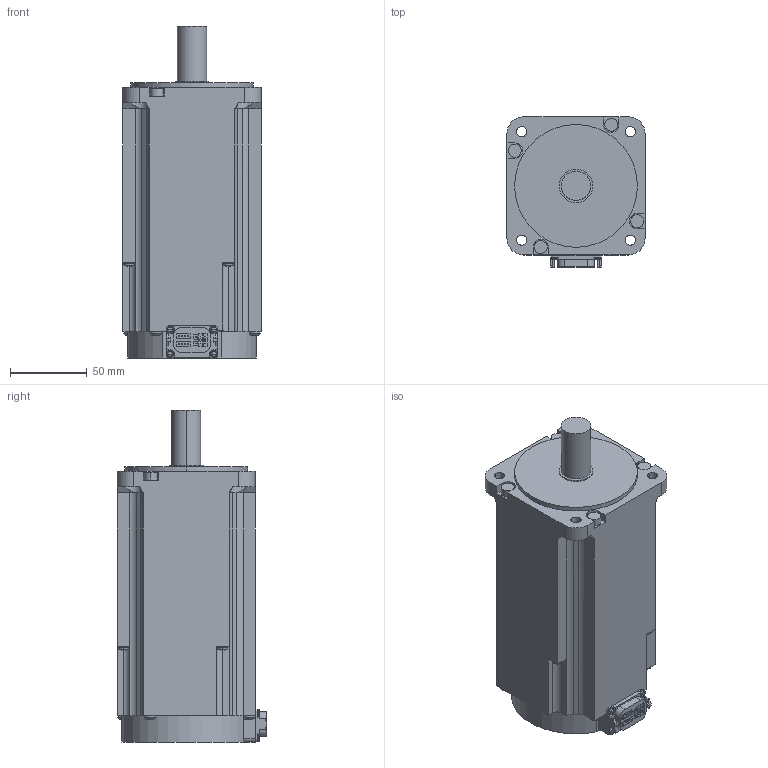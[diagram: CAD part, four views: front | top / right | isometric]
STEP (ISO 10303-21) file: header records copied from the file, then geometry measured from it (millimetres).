
FILE_DESCRIPTION((''),'2;1');
FILE_NAME('PRT0003','2019-01-16T',('XE90682'),(''),'CREO PARAMETRIC BY PTC INC, 2016380','CREO PARAMETRIC BY PTC INC, 2016380','');
FILE_SCHEMA(('CONFIG_CONTROL_DESIGN'));
Length unit declared in the file: millimetre
Products named in the file (1): PRT0003
Bounding box: 90 x 97.65 x 216.3 mm (x, y, z)
Volume: 1243465.2 mm3; surface area: 80506.4 mm2
Topology: 1 solids, 1 shells, 397 faces, 1028 edges, 652 vertices
Faces by surface type: plane 224, cylinder 117, torus 24, sphere 24, cone 8
Entity records: 12071 total; most frequent: CARTESIAN_POINT 2181, DIRECTION 2101, ORIENTED_EDGE 2008, EDGE_CURVE 1004, AXIS2_PLACEMENT_3D 716, VECTOR 669, LINE 669, VERTEX_POINT 652
